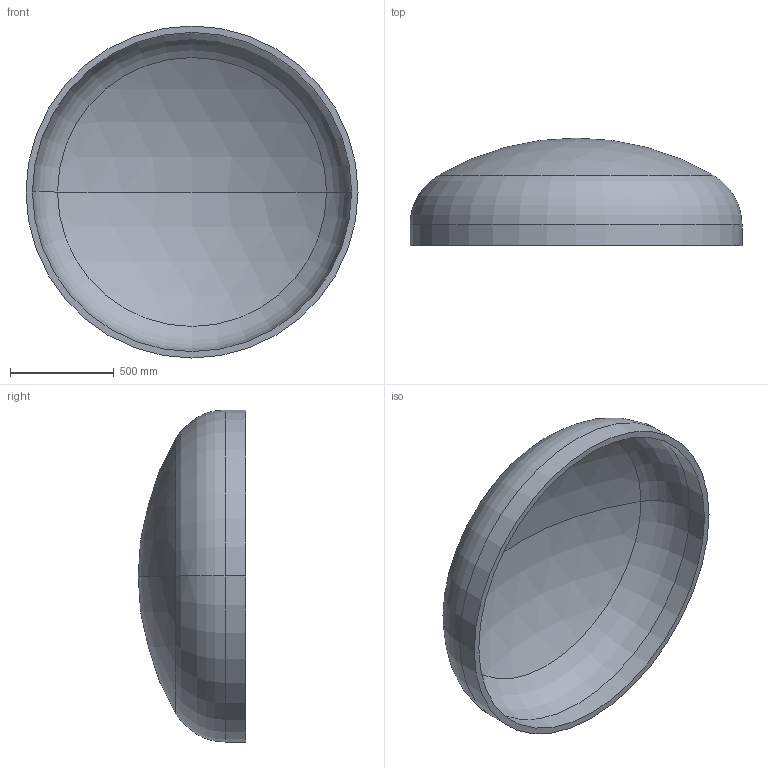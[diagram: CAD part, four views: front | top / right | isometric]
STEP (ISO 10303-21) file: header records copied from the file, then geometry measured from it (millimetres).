
FILE_DESCRIPTION (( 'STEP AP203' ), '1' );
FILE_NAME ('DIN 28013 Korbbogenform_-_Boden DIN 28013 - 1600 x 100 - I - s=31.step', '2016-07-01T11:12:12', ( '' ), ( '' ), 'SwSTEP 2.0', 'SolidWorks 2013', '' );
FILE_SCHEMA (( 'CONFIG_CONTROL_DESIGN' ));
Length unit declared in the file: millimetre
Products named in the file (1): DIN 28013 Korbbogenform_-_Boden DIN 28013 - 1600 x 100 - I - s=31
Bounding box: 1600 x 518.45 x 1600 mm (x, y, z)
Volume: 99335575.2 mm3; surface area: 6563561.4 mm2
Topology: 1 solids, 1 shells, 13 faces, 24 edges, 14 vertices
Faces by surface type: torus 4, cylinder 4, sphere 4, plane 1
Entity records: 407 total; most frequent: DIRECTION 72, CARTESIAN_POINT 52, ORIENTED_EDGE 48, AXIS2_PLACEMENT_3D 34, EDGE_CURVE 24, CIRCLE 20, EDGE_LOOP 14, VERTEX_POINT 14
